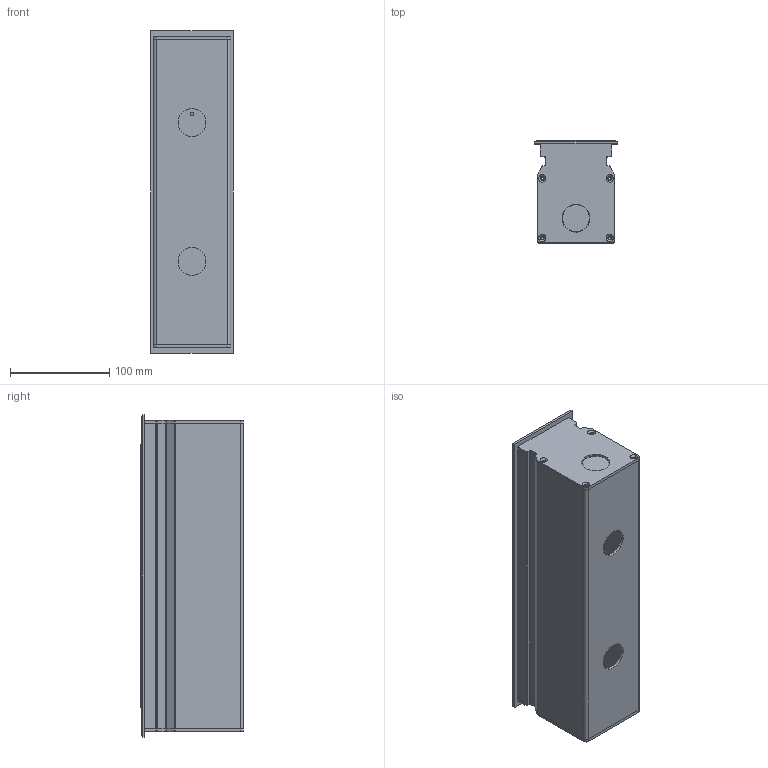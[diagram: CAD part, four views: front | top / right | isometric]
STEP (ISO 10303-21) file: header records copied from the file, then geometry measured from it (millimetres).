
FILE_DESCRIPTION((''),'2;1');
FILE_NAME('2RLB-06-YOUBIAN_ASM_ASM','2024-09-02T',('Administrator'),(''),'CREO PARAMETRIC BY PTC INC, 2014500','CREO PARAMETRIC BY PTC INC, 2014500','');
FILE_SCHEMA(('CONFIG_CONTROL_DESIGN'));
Products named in the file (28): 2RL-06DT-YOUBIAN_21; 2RLZUOYOUGAI_23; YUMAITONG-YUUBIAN-06_21; YUMAIJIANZUOYOUGAI_21; 2RQ-02_21; PRT0012_21; YUMAIJIAN-YBIAN-06_ASM_21_ASM; ZUOYOUGAIGUIJIAODIAN_21; 2R-06MIANGAIYOUBIANKUANG_21; 2R-24BL_21; ____-____7_21; ____2_21; PG9_____ASM_ASM_ASM_ASM_21_ASM; 2RLZUOYOUGAI-002_19; SANREBAN_22; XINGUANGYUANBAN_21; XIN-LENS_20; XINGUANGYUAN_ASM_21_ASM; M3LUOZHU_20; YABAN_20; ZHUANZHOU-01_20; ZHUANZHOU-02_20; XUANZHUAN_ASM_20_ASM; 2CFFANGSHUIQUAN_16; M12_16; 2DF-KDP_16; 2RLB-06-YOUBIAN_ASM_21_ASM; 2RLB-06-YOUBIAN_ASM_ASM
Assembly tree (36 placements, depth 5):
  2RLB-06-YOUBIAN_ASM_ASM
    2RLB-06-YOUBIAN_ASM_21_ASM
      2RL-06DT-YOUBIAN_21
      2RLZUOYOUGAI_23
      YUMAIJIAN-YBIAN-06_ASM_21_ASM
        YUMAITONG-YUUBIAN-06_21
        YUMAIJIANZUOYOUGAI_21  x2
        2RQ-02_21
        PRT0012_21
      ZUOYOUGAIGUIJIAODIAN_21  x2
      2R-06MIANGAIYOUBIANKUANG_21
      2R-24BL_21
      PG9_____ASM_ASM_ASM_ASM_21_ASM
        ____-____7_21
        ____2_21
      2RLZUOYOUGAI-002_19
      XUANZHUAN_ASM_20_ASM
        SANREBAN_22
        XINGUANGYUAN_ASM_21_ASM
          XINGUANGYUANBAN_21
          XIN-LENS_20  x6
        M3LUOZHU_20  x3
        YABAN_20
        ZHUANZHOU-01_20
        ZHUANZHOU-02_20
      2CFFANGSHUIQUAN_16
      M12_16
      2DF-KDP_16
Bounding box: 83 x 103.3 x 325 mm (x, y, z)
Volume: 780123.2 mm3; surface area: 500516.5 mm2
Topology: 31 solids, 31 shells, 1742 faces, 4637 edges, 3050 vertices
Faces by surface type: plane 1024, cylinder 499, cone 97, extrusion 66, bspline 32, torus 24
Entity records: 59266 total; most frequent: CARTESIAN_POINT 20903, ORIENTED_EDGE 7918, DIRECTION 7768, EDGE_CURVE 3959, VECTOR 2602, VERTEX_POINT 2594, AXIS2_PLACEMENT_3D 2583, LINE 2536
